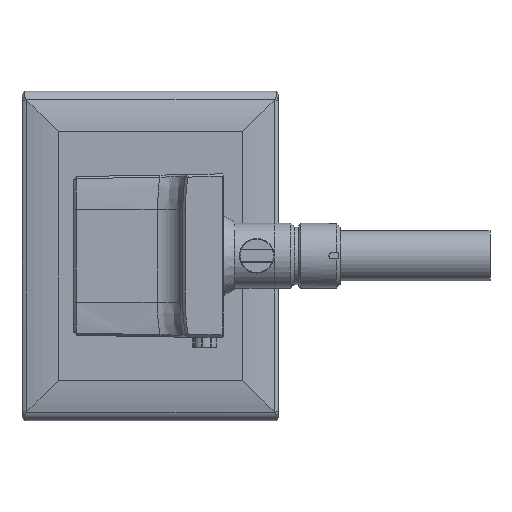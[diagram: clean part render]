
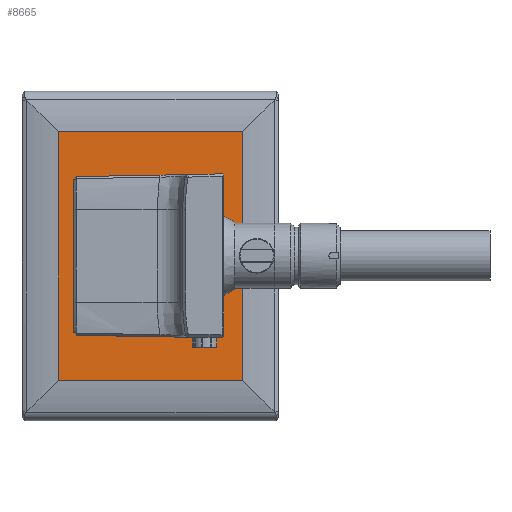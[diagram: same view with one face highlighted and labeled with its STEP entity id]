
A CAD part, top view. The second image highlights one B-rep face of the part: STEP entity #8665.
In plain terms, the highlighted planar face has unit normal (0, 0, 1).
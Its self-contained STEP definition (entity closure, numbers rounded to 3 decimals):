
#108=CARTESIAN_POINT('',(70.,74.944,266.403));
#109=VERTEX_POINT('',#108);
#116=CARTESIAN_POINT('',(-70.,72.5,266.403));
#117=VERTEX_POINT('',#116);
#118=CARTESIAN_POINT('',(-70.,72.5,266.403));
#119=DIRECTION('',(1.,0.017,0.0));
#120=VECTOR('',#119,140.021);
#121=LINE('',#118,#120);
#122=EDGE_CURVE('',#117,#109,#121,.T.);
#171=CARTESIAN_POINT('',(70.,-74.944,266.403));
#172=VERTEX_POINT('',#171);
#179=CARTESIAN_POINT('',(70.,74.944,266.403));
#180=DIRECTION('',(0.0,-1.0,0.0));
#181=VECTOR('',#180,149.887);
#182=LINE('',#179,#181);
#183=EDGE_CURVE('',#109,#172,#182,.T.);
#214=CARTESIAN_POINT('',(-70.,-72.5,266.403));
#215=VERTEX_POINT('',#214);
#222=CARTESIAN_POINT('',(70.,-74.944,266.403));
#223=DIRECTION('',(-1.,0.017,0.0));
#224=VECTOR('',#223,140.021);
#225=LINE('',#222,#224);
#226=EDGE_CURVE('',#172,#215,#225,.T.);
#289=CARTESIAN_POINT('',(-70.,-72.5,266.403));
#290=DIRECTION('',(0.0,1.0,0.0));
#291=VECTOR('',#290,145.0);
#292=LINE('',#289,#291);
#293=EDGE_CURVE('',#215,#117,#292,.T.);
#8558=CARTESIAN_POINT('',(-87.95,118.7,266.403));
#8559=VERTEX_POINT('',#8558);
#8567=CARTESIAN_POINT('',(87.95,118.7,266.403));
#8568=VERTEX_POINT('',#8567);
#8569=CARTESIAN_POINT('',(87.95,118.7,266.403));
#8570=DIRECTION('',(-1.0,0.0,0.0));
#8571=VECTOR('',#8570,175.9);
#8572=LINE('',#8569,#8571);
#8573=EDGE_CURVE('',#8568,#8559,#8572,.T.);
#8618=CARTESIAN_POINT('',(-87.95,-118.7,266.403));
#8619=VERTEX_POINT('',#8618);
#8627=CARTESIAN_POINT('',(-87.95,118.7,266.403));
#8628=DIRECTION('',(0.0,-1.0,0.0));
#8629=VECTOR('',#8628,237.4);
#8630=LINE('',#8627,#8629);
#8631=EDGE_CURVE('',#8559,#8619,#8630,.T.);
#8636=CARTESIAN_POINT('',(0.,0.,266.403));
#8637=DIRECTION('',(0.0,0.0,-1.0));
#8638=DIRECTION('',(-1.0,0.0,0.0));
#8639=AXIS2_PLACEMENT_3D('',#8636,#8637,#8638);
#8640=PLANE('',#8639);
#8641=ORIENTED_EDGE('',*,*,#8573,.T.);
#8642=ORIENTED_EDGE('',*,*,#8631,.T.);
#8643=CARTESIAN_POINT('',(87.95,-118.7,266.403));
#8644=VERTEX_POINT('',#8643);
#8645=CARTESIAN_POINT('',(-87.95,-118.7,266.403));
#8646=DIRECTION('',(1.0,0.0,0.0));
#8647=VECTOR('',#8646,175.9);
#8648=LINE('',#8645,#8647);
#8649=EDGE_CURVE('',#8619,#8644,#8648,.T.);
#8650=ORIENTED_EDGE('',*,*,#8649,.T.);
#8651=CARTESIAN_POINT('',(87.95,-118.7,266.403));
#8652=DIRECTION('',(0.0,1.0,0.0));
#8653=VECTOR('',#8652,237.4);
#8654=LINE('',#8651,#8653);
#8655=EDGE_CURVE('',#8644,#8568,#8654,.T.);
#8656=ORIENTED_EDGE('',*,*,#8655,.T.);
#8657=EDGE_LOOP('',(#8641,#8642,#8650,#8656));
#8658=FACE_OUTER_BOUND('',#8657,.T.);
#8659=ORIENTED_EDGE('',*,*,#122,.T.);
#8660=ORIENTED_EDGE('',*,*,#183,.T.);
#8661=ORIENTED_EDGE('',*,*,#226,.T.);
#8662=ORIENTED_EDGE('',*,*,#293,.T.);
#8663=EDGE_LOOP('',(#8659,#8660,#8661,#8662));
#8664=FACE_BOUND('',#8663,.T.);
#8665=ADVANCED_FACE('',(#8658,#8664),#8640,.F.);
